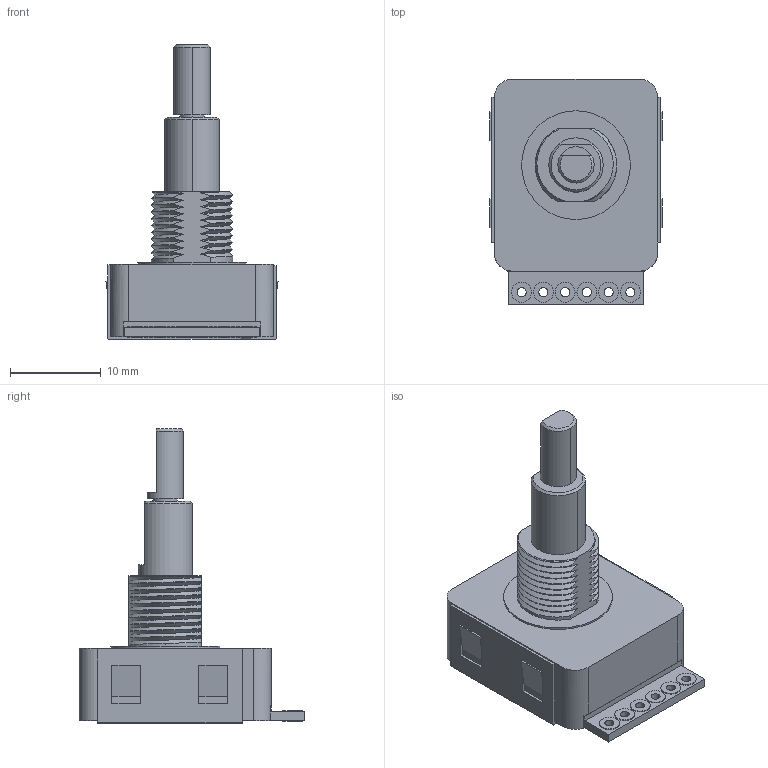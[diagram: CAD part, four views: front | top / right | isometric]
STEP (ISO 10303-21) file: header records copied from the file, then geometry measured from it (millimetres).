
FILE_DESCRIPTION (( 'STEP AP203' ), '1' );
FILE_NAME ('MRB C T 25 5 B V7.STEP', '2025-04-03T14:51:48', ( '' ), ( '' ), 'SwSTEP 2.0', 'SolidWorks 2024', '' );
FILE_SCHEMA (( 'CONFIG_CONTROL_DESIGN' ));
Length unit declared in the file: millimetre
Products named in the file (1): MRB C T 25 5 B V7
Bounding box: 19 x 24.91 x 32.5 mm (x, y, z)
Volume: 2373 mm3; surface area: 5365.8 mm2
Topology: 9 solids, 9 shells, 269 faces, 700 edges, 466 vertices
Faces by surface type: plane 114, cylinder 108, bspline 45, cone 2
Entity records: 25142 total; most frequent: CARTESIAN_POINT 18869, ORIENTED_EDGE 1400, DIRECTION 1133, EDGE_CURVE 700, VERTEX_POINT 466, AXIS2_PLACEMENT_3D 388, VECTOR 357, LINE 357
